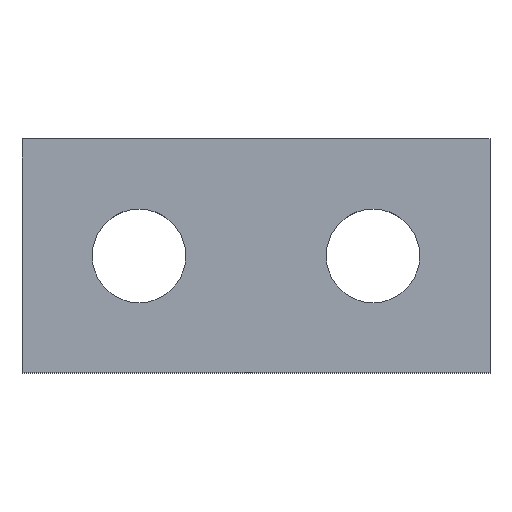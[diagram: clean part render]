
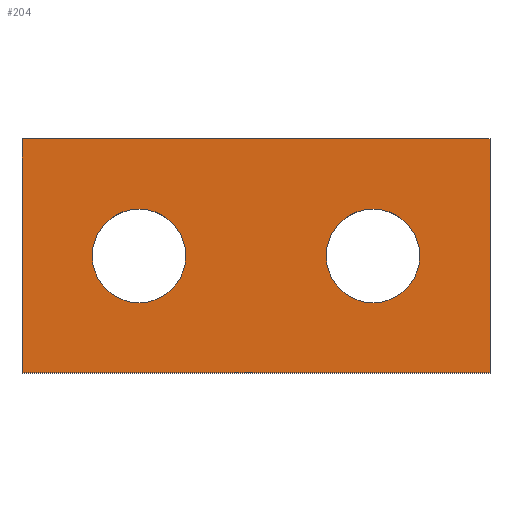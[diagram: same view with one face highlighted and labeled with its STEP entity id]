
A CAD part, top view. The second image highlights one B-rep face of the part: STEP entity #204.
In plain terms, the highlighted planar face has unit normal (0, 0, 1).
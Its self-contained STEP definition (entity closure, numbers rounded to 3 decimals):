
#109=AXIS2_PLACEMENT_3D('Circle Axis2P3D',#107,#108,$) ;
#133=AXIS2_PLACEMENT_3D('Circle Axis2P3D',#131,#132,$) ;
#146=AXIS2_PLACEMENT_3D('Plane Axis2P3D',#143,#144,#145) ;
#188=AXIS2_PLACEMENT_3D('Circle Axis2P3D',#186,#187,$) ;
#197=AXIS2_PLACEMENT_3D('Circle Axis2P3D',#195,#196,$) ;
#104=CARTESIAN_POINT('Vertex',(65.,25.,20.)) ;
#107=CARTESIAN_POINT('Axis2P3D Location',(75.,25.,20.)) ;
#111=CARTESIAN_POINT('Vertex',(85.,25.,20.)) ;
#131=CARTESIAN_POINT('Axis2P3D Location',(75.,25.,20.)) ;
#143=CARTESIAN_POINT('Axis2P3D Location',(0.,0.,20.)) ;
#148=CARTESIAN_POINT('Line Origine',(50.,0.,20.)) ;
#152=CARTESIAN_POINT('Vertex',(0.,0.,20.)) ;
#154=CARTESIAN_POINT('Vertex',(100.,0.,20.)) ;
#157=CARTESIAN_POINT('Line Origine',(100.,25.,20.)) ;
#161=CARTESIAN_POINT('Vertex',(100.,50.,20.)) ;
#164=CARTESIAN_POINT('Line Origine',(50.,50.,20.)) ;
#168=CARTESIAN_POINT('Vertex',(0.,50.,20.)) ;
#171=CARTESIAN_POINT('Line Origine',(0.,25.,20.)) ;
#186=CARTESIAN_POINT('Axis2P3D Location',(25.,25.,20.)) ;
#190=CARTESIAN_POINT('Vertex',(35.,25.,20.)) ;
#192=CARTESIAN_POINT('Vertex',(15.,25.,20.)) ;
#195=CARTESIAN_POINT('Axis2P3D Location',(25.,25.,20.)) ;
#108=DIRECTION('Axis2P3D Direction',(0.,0.,1.)) ;
#132=DIRECTION('Axis2P3D Direction',(0.,0.,1.)) ;
#144=DIRECTION('Axis2P3D Direction',(0.,0.,1.)) ;
#145=DIRECTION('Axis2P3D XDirection',(1.,0.,0.)) ;
#149=DIRECTION('Vector Direction',(1.,0.,0.)) ;
#158=DIRECTION('Vector Direction',(0.,1.,0.)) ;
#165=DIRECTION('Vector Direction',(-1.,0.,0.)) ;
#172=DIRECTION('Vector Direction',(0.,-1.,0.)) ;
#187=DIRECTION('Axis2P3D Direction',(0.,0.,1.)) ;
#196=DIRECTION('Axis2P3D Direction',(0.,0.,1.)) ;
#150=VECTOR('Line Direction',#149,1.) ;
#159=VECTOR('Line Direction',#158,1.) ;
#166=VECTOR('Line Direction',#165,1.) ;
#173=VECTOR('Line Direction',#172,1.) ;
#177=ORIENTED_EDGE('',*,*,#156,.T.) ;
#178=ORIENTED_EDGE('',*,*,#163,.T.) ;
#179=ORIENTED_EDGE('',*,*,#170,.T.) ;
#180=ORIENTED_EDGE('',*,*,#175,.T.) ;
#183=ORIENTED_EDGE('',*,*,#135,.F.) ;
#184=ORIENTED_EDGE('',*,*,#113,.F.) ;
#201=ORIENTED_EDGE('',*,*,#194,.F.) ;
#202=ORIENTED_EDGE('',*,*,#199,.F.) ;
#185=FACE_BOUND('',#182,.T.) ;
#203=FACE_BOUND('',#200,.T.) ;
#204=ADVANCED_FACE('PartBody',(#181,#185,#203),#147,.T.) ;
#110=CIRCLE('generated circle',#109,10.) ;
#134=CIRCLE('generated circle',#133,10.) ;
#189=CIRCLE('generated circle',#188,10.) ;
#198=CIRCLE('generated circle',#197,10.) ;
#113=EDGE_CURVE('',#105,#112,#110,.T.) ;
#135=EDGE_CURVE('',#112,#105,#134,.T.) ;
#156=EDGE_CURVE('',#153,#155,#151,.T.) ;
#163=EDGE_CURVE('',#155,#162,#160,.T.) ;
#170=EDGE_CURVE('',#162,#169,#167,.T.) ;
#175=EDGE_CURVE('',#169,#153,#174,.T.) ;
#194=EDGE_CURVE('',#191,#193,#189,.T.) ;
#199=EDGE_CURVE('',#193,#191,#198,.T.) ;
#176=EDGE_LOOP('',(#177,#178,#179,#180)) ;
#182=EDGE_LOOP('',(#183,#184)) ;
#200=EDGE_LOOP('',(#201,#202)) ;
#181=FACE_OUTER_BOUND('',#176,.T.) ;
#151=LINE('Line',#148,#150) ;
#160=LINE('Line',#157,#159) ;
#167=LINE('Line',#164,#166) ;
#174=LINE('Line',#171,#173) ;
#147=PLANE('Plane',#146) ;
#105=VERTEX_POINT('',#104) ;
#112=VERTEX_POINT('',#111) ;
#153=VERTEX_POINT('',#152) ;
#155=VERTEX_POINT('',#154) ;
#162=VERTEX_POINT('',#161) ;
#169=VERTEX_POINT('',#168) ;
#191=VERTEX_POINT('',#190) ;
#193=VERTEX_POINT('',#192) ;
